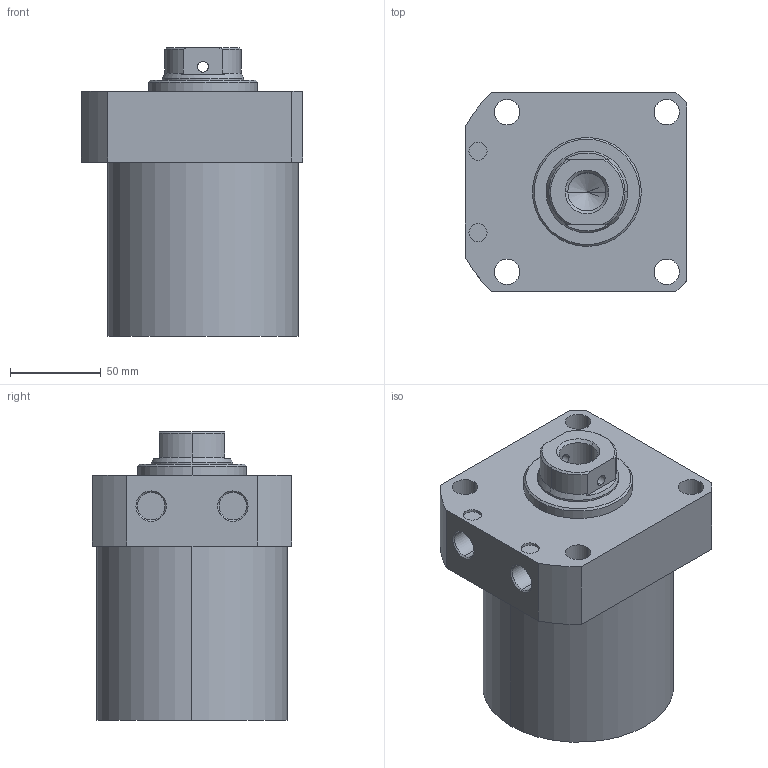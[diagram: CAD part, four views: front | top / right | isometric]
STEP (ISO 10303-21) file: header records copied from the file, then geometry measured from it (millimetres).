
FILE_DESCRIPTION (( 'STEP AP203' ), '1' );
FILE_NAME ('CLLR-105CB-075.STEP', '2019-12-19T01:46:59', ( '' ), ( '' ), 'SwSTEP 2.0', 'SolidWorks 2015', '' );
FILE_SCHEMA (( 'CONFIG_CONTROL_DESIGN' ));
Length unit declared in the file: millimetre
Products named in the file (1): CLLR-105CB-075
Bounding box: 122 x 110 x 159 mm (x, y, z)
Volume: 1333342.8 mm3; surface area: 89622.2 mm2
Topology: 1 solids, 1 shells, 67 faces, 160 edges, 101 vertices
Faces by surface type: cylinder 33, plane 19, cone 15
Entity records: 2165 total; most frequent: CARTESIAN_POINT 471, DIRECTION 358, ORIENTED_EDGE 316, EDGE_CURVE 158, AXIS2_PLACEMENT_3D 144, VERTEX_POINT 101, EDGE_LOOP 87, CIRCLE 76
